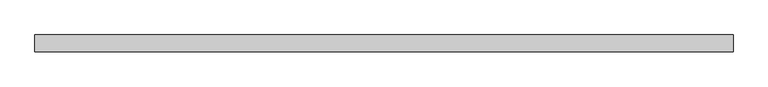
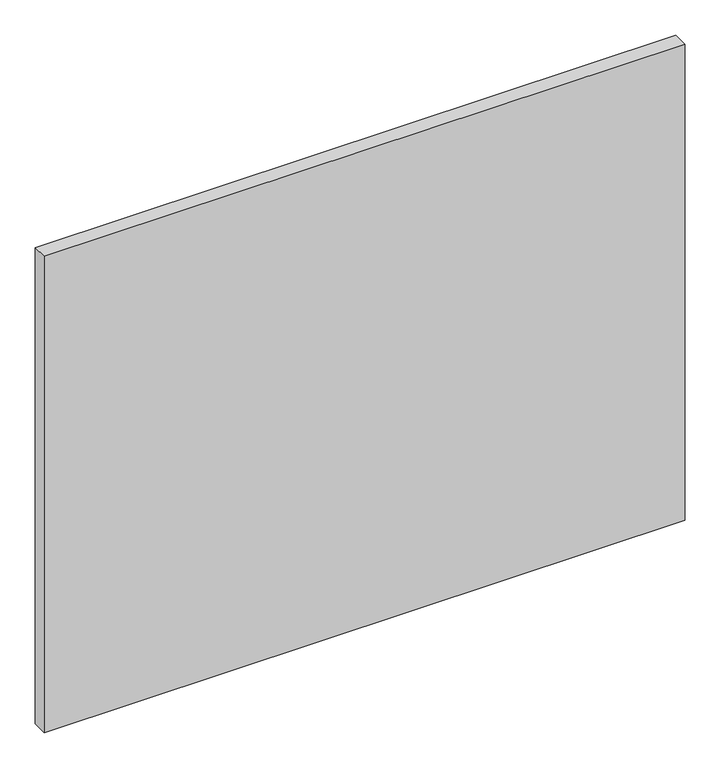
"""IFC4 building model written with IfcOpenShell, lengths in millimetres: plate geometry, 系统嵌板 : 玻璃."""

import ifcopenshell
import ifcopenshell.guid

model = None  # the IFC model being written
_history = None  # IfcOwnerHistory: only IFC2X3 demands one
_inside = {}  # id of a spatial element -> (the spatial element, [elements in it])
_under = {}  # id of a project, library or spatial element -> (it, [spatial elements below it])
_declared = {}  # id of a project -> (the project, [libraries it declares])
_typed = {}  # id of a type object -> (the type object, [elements of that type])
_made_of = {}  # id of a material, layer set ... -> (it, [elements and type objects made of it])


def new_model(schema):
    """Start an empty IFC model of exactly this schema.

    Asked for "IFC4X3", IfcOpenShell would pick the latest addendum, in which some entities
    have other attributes; the version numbers below select the first issue.
    IFC2X3 requires an IfcOwnerHistory on every rooted entity: one is made here for all.
    """
    global model, _history
    if schema == "IFC4X3":
        model = ifcopenshell.file(schema_version=(4, 3, 0, 0))
    else:
        model = ifcopenshell.file(schema=schema)
    _inside.clear()
    _under.clear()
    _declared.clear()
    _typed.clear()
    _made_of.clear()
    _history = None
    if model.schema == "IFC2X3":
        org = make("IfcOrganization", Name="unknown")
        user = make(
            "IfcPersonAndOrganization",
            ThePerson=make("IfcPerson", FamilyName="unknown"),
            TheOrganization=org,
        )
        app = make(
            "IfcApplication",
            ApplicationDeveloper=org,
            Version="unknown",
            ApplicationFullName="unknown",
            ApplicationIdentifier="unknown",
        )
        _history = make(
            "IfcOwnerHistory",
            OwningUser=user,
            OwningApplication=app,
            ChangeAction="ADDED",
            CreationDate=0,
        )
    return model


def make(cls, **values):
    """One entity of the class cls with the attributes given. An attribute that is None is left unset."""
    return model.create_entity(
        cls, **{name: value for name, value in values.items() if value is not None}
    )


def rooted(cls, **values):
    """An entity with a GlobalId (a new one), such as an element, a storey or a relation."""
    return make(cls, GlobalId=ifcopenshell.guid.new(), OwnerHistory=_history, **values)


def si_unit(unit_type, name, prefix=None):
    """IfcSIUnit, for example si_unit("LENGTHUNIT", "METRE", prefix="MILLI")."""
    return make("IfcSIUnit", UnitType=unit_type, Prefix=prefix, Name=name)


def assignment(units):
    """IfcUnitAssignment: the units of a project."""
    return None if units is None else make("IfcUnitAssignment", Units=units)


def point(xyz):
    """IfcCartesianPoint."""
    return None if xyz is None else make("IfcCartesianPoint", Coordinates=xyz)


def direction(xyz):
    """IfcDirection."""
    return None if xyz is None else make("IfcDirection", DirectionRatios=xyz)


def frame(location, z_axis=None, x_axis=None):
    """IfcAxis2Placement3D, a coordinate frame: its origin and axes. An axis left out is left unset."""
    return make(
        "IfcAxis2Placement3D",
        Location=point(location),
        Axis=direction(z_axis),
        RefDirection=direction(x_axis),
    )


def origin():
    """The frame at (0, 0, 0) with its axes left unset."""
    return frame((0.0, 0.0, 0.0))


def origin_with_axes():
    """The frame at (0, 0, 0) with the z axis (0, 0, 1) and the x axis (1, 0, 0) written out."""
    return frame((0.0, 0.0, 0.0), z_axis=(0.0, 0.0, 1.0), x_axis=(1.0, 0.0, 0.0))


def place(relative_to, where):
    """IfcLocalPlacement: puts the frame where relative to a parent placement (None: the world)."""
    return make(
        "IfcLocalPlacement", PlacementRelTo=relative_to, RelativePlacement=where
    )


def context(
    kind, dimensions, precision=None, world=None, true_north=None, identifier=None
):
    """IfcGeometricRepresentationContext, for example the 3D "Model" context."""
    return make(
        "IfcGeometricRepresentationContext",
        ContextIdentifier=identifier,
        ContextType=kind,
        CoordinateSpaceDimension=dimensions,
        Precision=precision,
        WorldCoordinateSystem=world,
        TrueNorth=true_north,
    )


def project(units=None, contexts=None):
    """IfcProject with its units and contexts."""
    return rooted(
        "IfcProject",
        Name="project",
        RepresentationContexts=contexts,
        UnitsInContext=assignment(units),
    )


def spatial(cls, under=None, at=None, **own):
    """A site, building, storey or space (cls), placed at a placement, below another one or the project."""
    s = rooted(cls, ObjectPlacement=at, **own)
    if under is not None:
        _under.setdefault(under.id(), (under, []))[1].append(s)
    return s


def polyline(points):
    """IfcPolyline through the points."""
    return make("IfcPolyline", Points=[point(p) for p in points])


def outline(outer, holes=None, kind="AREA"):
    """IfcArbitraryClosedProfileDef: a profile drawn as a closed curve; with holes, ...WithVoids."""
    if holes is None:
        return make("IfcArbitraryClosedProfileDef", ProfileType=kind, OuterCurve=outer)
    return make(
        "IfcArbitraryProfileDefWithVoids",
        ProfileType=kind,
        OuterCurve=outer,
        InnerCurves=holes,
    )


def extrude(swept, where, along, depth):
    """IfcExtrudedAreaSolid: the profile swept, set in the frame where, extruded along a direction by depth."""
    return make(
        "IfcExtrudedAreaSolid",
        SweptArea=swept,
        Position=where,
        ExtrudedDirection=direction(along),
        Depth=depth,
    )


def shape(context_of_items, identifier, shape_type, items):
    """IfcShapeRepresentation: the items that make up one representation, for example the "Body"."""
    return make(
        "IfcShapeRepresentation",
        ContextOfItems=context_of_items,
        RepresentationIdentifier=identifier,
        RepresentationType=shape_type,
        Items=items,
    )


def source(mapping_origin, context_of_items, identifier, shape_type, items):
    """IfcRepresentationMap: a shape defined once, which mapped items show again and again."""
    return make(
        "IfcRepresentationMap",
        MappingOrigin=mapping_origin,
        MappedRepresentation=shape(context_of_items, identifier, shape_type, items),
    )


def transform(
    local_origin,
    x_axis=None,
    y_axis=None,
    z_axis=None,
    scale=None,
    scale2=None,
    scale3=None,
    uniform=True,
):
    """IfcCartesianTransformationOperator3D, or its non-uniform kind. x_axis, y_axis, z_axis: its Axis1, 2, 3."""
    if uniform:
        return make(
            "IfcCartesianTransformationOperator3D",
            Axis1=direction(x_axis),
            Axis2=direction(y_axis),
            LocalOrigin=point(local_origin),
            Scale=scale,
            Axis3=direction(z_axis),
        )
    return make(
        "IfcCartesianTransformationOperator3DnonUniform",
        Axis1=direction(x_axis),
        Axis2=direction(y_axis),
        LocalOrigin=point(local_origin),
        Scale=scale,
        Axis3=direction(z_axis),
        Scale2=scale2,
        Scale3=scale3,
    )


def mapped(mapping_source, mapping_target):
    """IfcMappedItem: shows the shape of a source again, moved by a transform."""
    return make(
        "IfcMappedItem", MappingSource=mapping_source, MappingTarget=mapping_target
    )


def made_of(thing, what):
    """Note that an element or type object is made of a material, layer set ...; save() writes the relation."""
    if what is not None:
        _made_of.setdefault(what.id(), (what, []))[1].append(thing)
    return thing


def element(
    cls,
    number,
    at=None,
    inside=None,
    cuts=None,
    type_object=None,
    material=None,
    context=None,
    identifier="Body",
    shape_type=None,
    held_by="IfcProductDefinitionShape",
    body=None,
    shapes=None,
    **own,
):
    """One element of the class cls, such as IfcWall. Its Tag is "e" and its number.

    at: its placement. inside: the storey or other place that contains it. cuts: it is an
    opening in that element (IfcRelVoidsElement). A single representation is given by context,
    identifier, shape_type and body (its items); several are given by shapes. held_by: the class
    of the entity that holds the representations. save() writes the other relations.
    """
    e = rooted(cls, Tag="e%d" % number, ObjectPlacement=at, **own)
    if body is not None:
        shapes = [shape(context, identifier, shape_type, body)]
    if shapes is not None:
        e.Representation = make(held_by, Representations=shapes)
    if inside is not None:
        _inside.setdefault(inside.id(), (inside, []))[1].append(e)
    if cuts is not None:
        rooted(
            "IfcRelVoidsElement", RelatingBuildingElement=cuts, RelatedOpeningElement=e
        )
    if type_object is not None:
        _typed.setdefault(type_object.id(), (type_object, []))[1].append(e)
    return made_of(e, material)


def aggregate(whole, parts):
    """IfcRelAggregates: a whole, such as a stair, and the parts it consists of."""
    return rooted("IfcRelAggregates", RelatingObject=whole, RelatedObjects=parts)


def save(model, path):
    """Write the relations noted so far, then the file.

    IfcRelAggregates (storeys below a building ...), IfcRelContainedInSpatialStructure (elements
    in a storey), IfcRelDefinesByType, IfcRelAssociatesMaterial and IfcRelDeclares: one each for
    every whole, place, type object, material and project.
    """
    for whole, parts in _under.values():
        aggregate(whole, parts)
    for where, things in _inside.values():
        rooted(
            "IfcRelContainedInSpatialStructure",
            RelatedElements=things,
            RelatingStructure=where,
        )
    for kind, things in _typed.values():
        rooted("IfcRelDefinesByType", RelatedObjects=things, RelatingType=kind)
    for what, things in _made_of.values():
        rooted("IfcRelAssociatesMaterial", RelatedObjects=things, RelatingMaterial=what)
    for by, libraries in _declared.values():
        rooted("IfcRelDeclares", RelatingContext=by, RelatedDefinitions=libraries)
    model.write(path)


def plate_00f9c624(model_context):
    return source(origin(), model_context, "Body", "SweptSolid", [
        extrude(outline(polyline([(525.0, -12.5), (-525.0, -12.5), (-525.0, 12.5), (525.0, 12.5), (525.0, -12.5)])), origin_with_axes(), (0.0, 0.0, 1.0), 825.0),
    ])


if __name__ == "__main__":
    model = new_model("IFC4")
    model_context = context("Model", 3, world=origin())
    ifc_project = project(units=[si_unit("LENGTHUNIT", "METRE", prefix="MILLI")], contexts=[model_context])
    site = spatial("IfcSite", under=ifc_project)
    building = spatial("IfcBuilding", under=site)
    placement = place(None, origin())
    plate_shape = plate_00f9c624(model_context)
    element("IfcPlate", 1, ObjectType="系统嵌板 : 玻璃", at=placement, inside=building, context=model_context, shape_type="MappedRepresentation", body=[
        mapped(plate_shape, transform((0.0, 0.0, 0.0), x_axis=(1.0, 0.0, 0.0), y_axis=(0.0, 1.0, 0.0), z_axis=(0.0, 0.0, 1.0))),
    ])
    save(model, "model.ifc")
